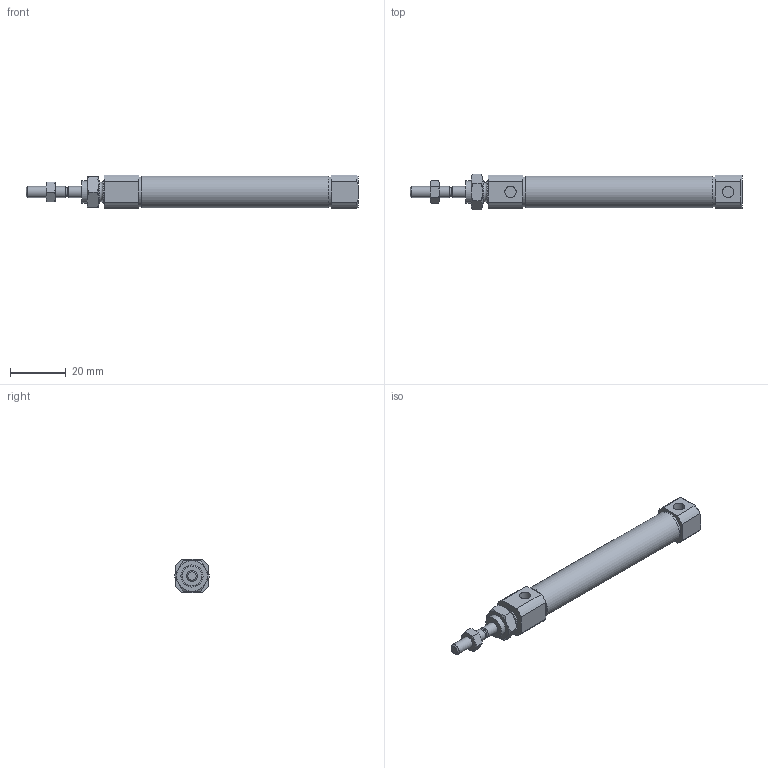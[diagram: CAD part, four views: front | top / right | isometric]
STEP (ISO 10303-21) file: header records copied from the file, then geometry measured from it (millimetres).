
FILE_DESCRIPTION((''),'2;1');
FILE_NAME('I:\3D電子目錄\氣缸\SBA\SBA\SBA10\SBA10x45.stp','2007-10-04T11:38:39',('66-2f-008'),(''),'Autodesk Inventor 11','Autodesk Inventor 11','');
FILE_SCHEMA(('AUTOMOTIVE_DESIGN { 1 0 10303 214 1 1 1 1 }'));
Length unit declared in the file: millimetre
Products named in the file (1): SBA10
Bounding box: 119 x 12.7 x 12 mm (x, y, z)
Volume: 10634.3 mm3; surface area: 4615.2 mm2
Topology: 1 solids, 1 shells, 88 faces, 186 edges, 113 vertices
Faces by surface type: plane 35, cone 30, cylinder 18, bspline 5
Full cylindrical faces by diameter (mm): 3.2 x1, 4 x3, 8 x3, 10.7 x2, 11.3 x1
Entity records: 2337 total; most frequent: CARTESIAN_POINT 609, DIRECTION 352, ORIENTED_EDGE 342, EDGE_CURVE 171, AXIS2_PLACEMENT_3D 153, EDGE_LOOP 116, VERTEX_POINT 113, FACE_OUTER_BOUND 88
